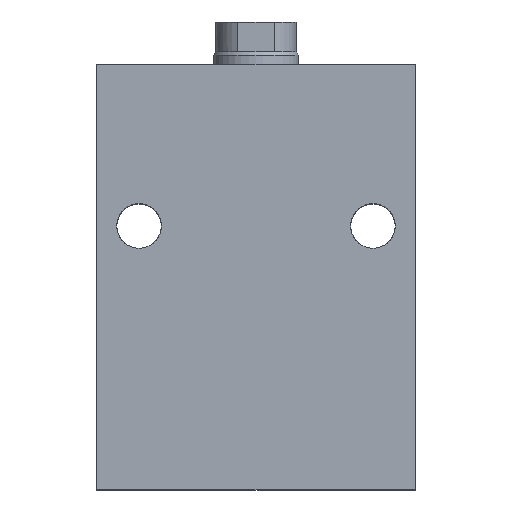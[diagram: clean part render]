
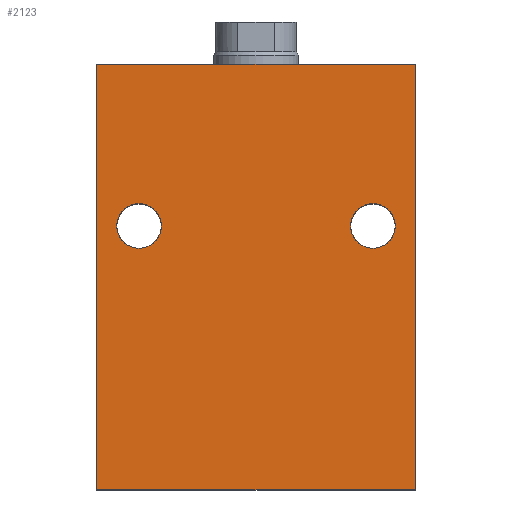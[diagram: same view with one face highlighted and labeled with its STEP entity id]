
A CAD part, top view. The second image highlights one B-rep face of the part: STEP entity #2123.
In plain terms, the highlighted planar face has unit normal (0, 0, 1).
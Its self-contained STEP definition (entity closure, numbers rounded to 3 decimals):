
#8 = CARTESIAN_POINT ( 'NONE',  ( 37.5, 100., 27.5 ) ) ;
#84 = EDGE_CURVE ( 'NONE', #2134, #1390, #2273, .T. ) ;
#298 = LINE ( 'NONE', #946, #2673 ) ;
#333 = ORIENTED_EDGE ( 'NONE', *, *, #84, .F. ) ;
#420 = CARTESIAN_POINT ( 'NONE',  ( 37.5, 50., 27.5 ) ) ;
#425 = ORIENTED_EDGE ( 'NONE', *, *, #1372, .F. ) ;
#461 = CARTESIAN_POINT ( 'NONE',  ( 37.5, 0., 27.5 ) ) ;
#479 = ORIENTED_EDGE ( 'NONE', *, *, #3471, .F. ) ;
#633 = VERTEX_POINT ( 'NONE', #2038 ) ;
#723 = ORIENTED_EDGE ( 'NONE', *, *, #736, .T. ) ;
#736 = EDGE_CURVE ( 'NONE', #633, #1390, #298, .T. ) ;
#739 = ORIENTED_EDGE ( 'NONE', *, *, #2204, .F. ) ;
#765 = VECTOR ( 'NONE', #1225, 1000. ) ;
#782 = CARTESIAN_POINT ( 'NONE',  ( -27.5, 62., 27.5 ) ) ;
#946 = CARTESIAN_POINT ( 'NONE',  ( -37.5, 0., 27.5 ) ) ;
#960 = CIRCLE ( 'NONE', #3641, 5.25 ) ;
#1062 = DIRECTION ( 'NONE',  ( 1., 0., 0. ) ) ;
#1225 = DIRECTION ( 'NONE',  ( 0., -1., 0. ) ) ;
#1239 = CARTESIAN_POINT ( 'NONE',  ( 27.5, 62., 27.5 ) ) ;
#1327 = CARTESIAN_POINT ( 'NONE',  ( -22.25, 62., 27.5 ) ) ;
#1372 = EDGE_CURVE ( 'NONE', #1903, #1625, #3000, .T. ) ;
#1390 = VERTEX_POINT ( 'NONE', #461 ) ;
#1448 = DIRECTION ( 'NONE',  ( -1., 0., 0. ) ) ;
#1478 = FACE_OUTER_BOUND ( 'NONE', #3206, .T. ) ;
#1493 = DIRECTION ( 'NONE',  ( 0., 0., 1. ) ) ;
#1507 = AXIS2_PLACEMENT_3D ( 'NONE', #3286, #1633, #3553 ) ;
#1544 = DIRECTION ( 'NONE',  ( 1., 0., 0. ) ) ;
#1592 = CARTESIAN_POINT ( 'NONE',  ( -37.5, 100., 27.5 ) ) ;
#1619 = ORIENTED_EDGE ( 'NONE', *, *, #3013, .T. ) ;
#1625 = VERTEX_POINT ( 'NONE', #3113 ) ;
#1633 = DIRECTION ( 'NONE',  ( 0., 0., 1. ) ) ;
#1644 = EDGE_LOOP ( 'NONE', ( #425, #2127 ) ) ;
#1829 = LINE ( 'NONE', #2716, #2477 ) ;
#1858 = EDGE_CURVE ( 'NONE', #3627, #2134, #2261, .T. ) ;
#1903 = VERTEX_POINT ( 'NONE', #1327 ) ;
#1949 = EDGE_CURVE ( 'NONE', #1625, #1903, #2108, .T. ) ;
#1964 = CARTESIAN_POINT ( 'NONE',  ( 22.25, 62., 27.5 ) ) ;
#1983 = AXIS2_PLACEMENT_3D ( 'NONE', #2559, #3110, #1448 ) ;
#2038 = CARTESIAN_POINT ( 'NONE',  ( -37.5, 0., 27.5 ) ) ;
#2054 = AXIS2_PLACEMENT_3D ( 'NONE', #782, #2757, #1062 ) ;
#2088 = DIRECTION ( 'NONE',  ( 1., 0., 0. ) ) ;
#2108 = CIRCLE ( 'NONE', #2054, 5.25 ) ;
#2123 = ADVANCED_FACE ( 'NONE', ( #2305, #2143, #1478 ), #3373, .F. ) ;
#2127 = ORIENTED_EDGE ( 'NONE', *, *, #1949, .F. ) ;
#2134 = VERTEX_POINT ( 'NONE', #8 ) ;
#2143 = FACE_BOUND ( 'NONE', #1644, .T. ) ;
#2156 = CARTESIAN_POINT ( 'NONE',  ( 32.75, 62., 27.5 ) ) ;
#2204 = EDGE_CURVE ( 'NONE', #3018, #2850, #2706, .T. ) ;
#2261 = LINE ( 'NONE', #1592, #3628 ) ;
#2273 = LINE ( 'NONE', #420, #765 ) ;
#2305 = FACE_BOUND ( 'NONE', #2429, .T. ) ;
#2429 = EDGE_LOOP ( 'NONE', ( #739, #479 ) ) ;
#2432 = DIRECTION ( 'NONE',  ( 1., 0., 0. ) ) ;
#2477 = VECTOR ( 'NONE', #2980, 1000. ) ;
#2533 = AXIS2_PLACEMENT_3D ( 'NONE', #3149, #1493, #3423 ) ;
#2559 = CARTESIAN_POINT ( 'NONE',  ( -37.5, 50., 27.5 ) ) ;
#2673 = VECTOR ( 'NONE', #2088, 1000. ) ;
#2706 = CIRCLE ( 'NONE', #2533, 5.25 ) ;
#2716 = CARTESIAN_POINT ( 'NONE',  ( -37.5, 50., 27.5 ) ) ;
#2757 = DIRECTION ( 'NONE',  ( 0., 0., 1. ) ) ;
#2850 = VERTEX_POINT ( 'NONE', #1964 ) ;
#2980 = DIRECTION ( 'NONE',  ( 0., -1., 0. ) ) ;
#3000 = CIRCLE ( 'NONE', #1507, 5.25 ) ;
#3013 = EDGE_CURVE ( 'NONE', #3627, #633, #1829, .T. ) ;
#3018 = VERTEX_POINT ( 'NONE', #2156 ) ;
#3110 = DIRECTION ( 'NONE',  ( 0., 0., -1. ) ) ;
#3113 = CARTESIAN_POINT ( 'NONE',  ( -32.75, 62., 27.5 ) ) ;
#3149 = CARTESIAN_POINT ( 'NONE',  ( 27.5, 62., 27.5 ) ) ;
#3197 = DIRECTION ( 'NONE',  ( 0., 0., 1. ) ) ;
#3206 = EDGE_LOOP ( 'NONE', ( #723, #333, #3268, #1619 ) ) ;
#3268 = ORIENTED_EDGE ( 'NONE', *, *, #1858, .F. ) ;
#3286 = CARTESIAN_POINT ( 'NONE',  ( -27.5, 62., 27.5 ) ) ;
#3300 = CARTESIAN_POINT ( 'NONE',  ( -37.5, 100., 27.5 ) ) ;
#3373 = PLANE ( 'NONE',  #1983 ) ;
#3423 = DIRECTION ( 'NONE',  ( 1., 0., 0. ) ) ;
#3471 = EDGE_CURVE ( 'NONE', #2850, #3018, #960, .T. ) ;
#3553 = DIRECTION ( 'NONE',  ( 1., 0., 0. ) ) ;
#3627 = VERTEX_POINT ( 'NONE', #3300 ) ;
#3628 = VECTOR ( 'NONE', #2432, 1000. ) ;
#3641 = AXIS2_PLACEMENT_3D ( 'NONE', #1239, #3197, #1544 ) ;
